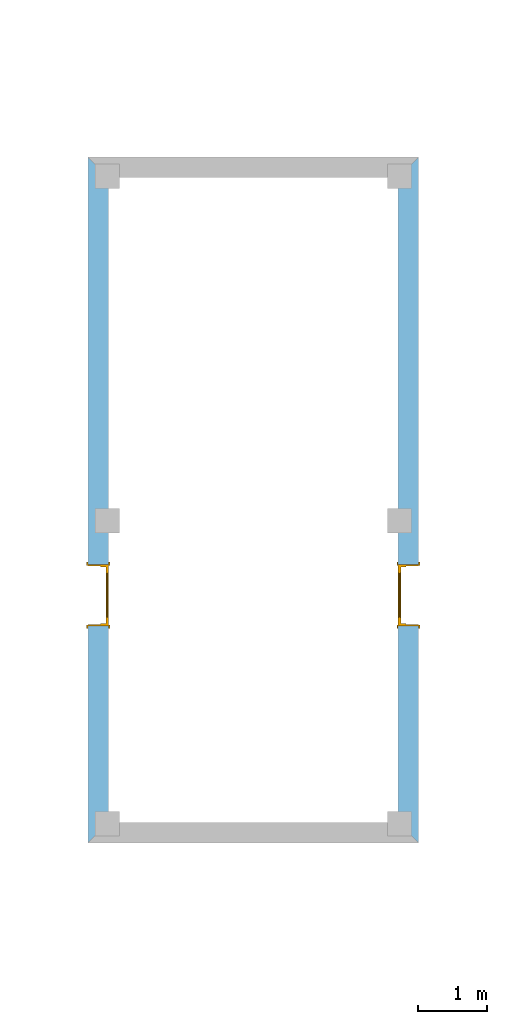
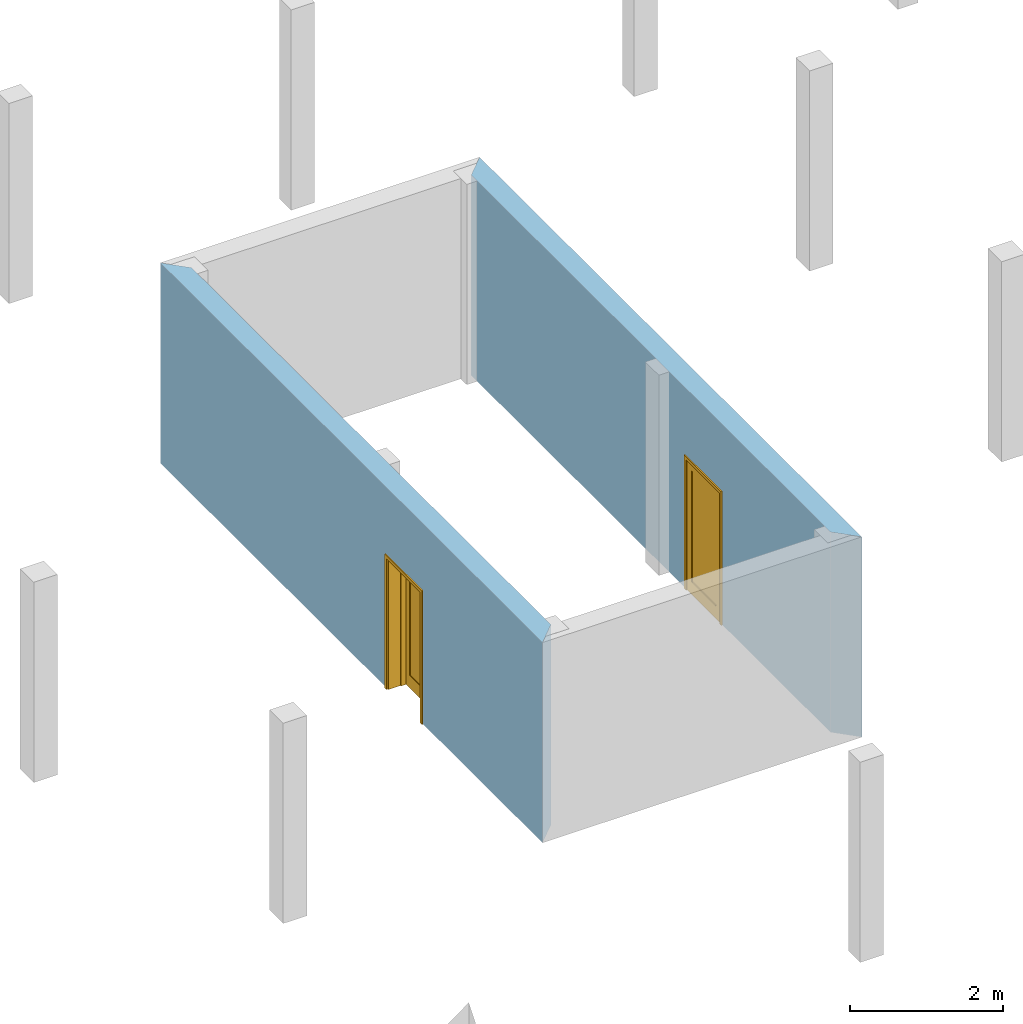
# One storey, part 2 of 2: 2 doors, 2 openings, plus 2 elements that do not belong to this part.
"""IFC2X3 building model written with IfcOpenShell, lengths in millimetres."""

from ifc_helpers import new_model, entity, si_unit, converted_unit, direction, frame, origin_with_axes, origin_2d_with_axis, place, context, subcontext, project, spatial, polyline, rectangle, outline, extrude, faceted_brep, source, transform, mapped, material, layer, layer_set, layer_usage, type_object, element, fill, save


model = new_model("IFC2X3")

# Units and contexts
model_context = context("Model", 3, precision=1e-05, world=origin_with_axes(), true_north=direction((0.0, 1.0)))
body_context = subcontext(model_context, "Body", "Model", "MODEL_VIEW")
ifc_project = project(units=[si_unit("LENGTHUNIT", "METRE", prefix="MILLI"), si_unit("AREAUNIT", "SQUARE_METRE"), si_unit("VOLUMEUNIT", "CUBIC_METRE"), converted_unit("PLANEANGLEUNIT", "DEGREE", entity("IfcPlaneAngleMeasure", 0.017453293), si_unit("PLANEANGLEUNIT", "RADIAN"), dimensions=[0, 0, 0, 0, 0, 0, 0]), si_unit("SOLIDANGLEUNIT", "STERADIAN"), si_unit("MASSUNIT", "GRAM"), si_unit("TIMEUNIT", "SECOND"), si_unit("THERMODYNAMICTEMPERATUREUNIT", "DEGREE_CELSIUS"), si_unit("LUMINOUSINTENSITYUNIT", "LUMEN")], contexts=[model_context])

# Site, building, storey
site_placement = place(None, origin_with_axes())
site = spatial("IfcSite", under=ifc_project, at=site_placement, Name="Sitio", CompositionType="ELEMENT")
building_placement = place(site_placement, origin_with_axes())
building = spatial("IfcBuilding", under=site, at=building_placement, Name="Ejemplo_StruBIM", CompositionType="ELEMENT")
storey_placement = place(building_placement, origin_with_axes())
storey = spatial("IfcBuildingStorey", under=building, at=storey_placement, Name="Low level", CompositionType="ELEMENT", Elevation=0.0)

# Wall, opening, door
ifc_material_1 = material(Name="Bloque mampostería")
ifc_layer = layer(ifc_material_1, 300.0, ventilated="UNKNOWN")
ifc_layer_set = layer_set([ifc_layer], Name="Bloque mampostería 300")
ifc_layer_usage_1 = layer_usage(ifc_layer_set, "AXIS2", "POSITIVE", 0.0)
wall_type = type_object("IfcWallType", Name="Bloque mampostería 11 3/4\"", PredefinedType="NOTDEFINED")
wall_1_placement = place(storey_placement, frame((13690.6, 4292.6, 0.0), z_axis=(0.0, 0.0, 1.0), x_axis=(0.0, 1.0, 0.0)))
wall_1 = element("IfcWallStandardCase", 1, at=wall_1_placement, inside=storey, type_object=wall_type, material=ifc_layer_usage_1, Name="Muro-002", context=body_context, shape_type="SweptSolid", body=[
    extrude(outline(polyline([(0.0, 0.0), (10007.6, 0.0), (9707.6, 300.0), (300.0, 300.0), (0.0, 0.0)])), origin_with_axes(), (0.0, 0.0, 1.0), 3200.4),
])
opening_1_placement = place(wall_1_placement, frame((3614.0, 0.0, 0.0), z_axis=(0.0, 0.0, 1.0), x_axis=(1.0, 0.0, 0.0)))
opening_1 = element("IfcOpeningElement", 2, at=opening_1_placement, cuts=wall_1, Name="P01", context=body_context, shape_type="SweptSolid", body=[
    extrude(rectangle(XDim=900.0, YDim=2100.0, at=origin_2d_with_axis()), frame((0.0, 0.0, 1050.0), z_axis=(0.0, 1.0, 0.0), x_axis=(1.0, 0.0, 0.0)), (0.0, 0.0, 1.0), 300.0),
    extrude(rectangle(XDim=974.0, YDim=2137.0, at=origin_2d_with_axis()), frame((0.0, 0.0, 1068.5), z_axis=(0.0, 1.0, 0.0), x_axis=(1.0, 0.0, 0.0)), (0.0, 0.0, -1.0), 300.0),
    extrude(rectangle(XDim=974.0, YDim=2137.0, at=origin_2d_with_axis()), frame((0.0, 300.0, 1068.5), z_axis=(0.0, -1.0, 0.0), x_axis=(1.0, 0.0, 0.0)), (0.0, 0.0, -1.0), 300.0),
])
ifc_material_2 = material(Name="Fondo")
door_style_1 = type_object("IfcDoorStyle", Name="Puerta 16", ConstructionType="NOTDEFINED", OperationType="SINGLE_SWING_RIGHT", ParameterTakesPrecedence=False, Sizeable=False)
shared_shape_1 = source(origin_with_axes(), body_context, "Body", "Brep", [
    faceted_brep([(-450.0, -115.0, 0.0), (-425.0, -115.0, 0.0), (-425.0, -300.0, 0.0), (-450.0, -300.0, 0.0), (-450.0, -115.0, 2100.0), (-425.0, -115.0, 2075.0), (-425.0, -300.0, 2075.0), (-450.0, -300.0, 2100.0)], [[[0, 1, 2, 3]], [[0, 4, 5, 1]], [[1, 5, 6, 2]], [[3, 2, 6, 7]], [[4, 0, 3, 7]], [[5, 4, 7, 6]]]),
    faceted_brep([(450.0, -115.0, 2100.0), (425.0, -115.0, 2075.0), (425.0, -300.0, 2075.0), (450.0, -300.0, 2100.0), (450.0, -115.0, 0.0), (425.0, -115.0, 0.0), (425.0, -300.0, 0.0), (450.0, -300.0, 0.0)], [[[0, 1, 2, 3]], [[0, 4, 5, 1]], [[1, 5, 6, 2]], [[3, 2, 6, 7]], [[4, 0, 3, 7]], [[5, 4, 7, 6]]]),
    faceted_brep([(-425.0, -115.0, 2075.0), (425.0, -115.0, 2075.0), (425.0, -300.0, 2075.0), (-425.0, -300.0, 2075.0), (-450.0, -115.0, 2100.0), (450.0, -115.0, 2100.0), (450.0, -300.0, 2100.0), (-450.0, -300.0, 2100.0)], [[[0, 1, 2, 3]], [[0, 4, 5, 1]], [[1, 5, 6, 2]], [[3, 2, 6, 7]], [[4, 0, 3, 7]], [[5, 4, 7, 6]]]),
    faceted_brep([(-487.0, -319.0, 0.0), (-487.0, -300.0, 0.0), (-437.0, -300.0, 0.0), (-437.0, -319.0, 0.0), (-487.0, -319.0, 2137.0), (-487.0, -300.0, 2137.0), (-437.0, -300.0, 2087.0), (-437.0, -319.0, 2087.0)], [[[0, 1, 2, 3]], [[4, 5, 1, 0]], [[1, 5, 6, 2]], [[3, 2, 6, 7]], [[0, 3, 7, 4]], [[7, 6, 5, 4]]]),
    faceted_brep([(487.0, -319.0, 2137.0), (487.0, -300.0, 2137.0), (437.0, -300.0, 2087.0), (437.0, -319.0, 2087.0), (487.0, -319.0, 0.0), (487.0, -300.0, 0.0), (437.0, -300.0, 0.0), (437.0, -319.0, 0.0)], [[[0, 1, 2, 3]], [[4, 5, 1, 0]], [[1, 5, 6, 2]], [[3, 2, 6, 7]], [[0, 3, 7, 4]], [[7, 6, 5, 4]]]),
    faceted_brep([(-487.0, -319.0, 2137.0), (-487.0, -300.0, 2137.0), (-437.0, -300.0, 2087.0), (-437.0, -319.0, 2087.0), (487.0, -319.0, 2137.0), (487.0, -300.0, 2137.0), (437.0, -300.0, 2087.0), (437.0, -319.0, 2087.0)], [[[0, 1, 2, 3]], [[4, 5, 1, 0]], [[1, 5, 6, 2]], [[3, 2, 6, 7]], [[0, 3, 7, 4]], [[7, 6, 5, 4]]]),
    faceted_brep([(-487.0, 19.0, 0.0), (-437.0, 19.0, 0.0), (-437.0, 0.0, 0.0), (-487.0, 0.0, 0.0), (-487.0, 19.0, 2137.0), (-437.0, 19.0, 2087.0), (-437.0, 0.0, 2087.0), (-487.0, 0.0, 2137.0)], [[[0, 1, 2, 3]], [[0, 4, 5, 1]], [[1, 5, 6, 2]], [[3, 2, 6, 7]], [[4, 0, 3, 7]], [[5, 4, 7, 6]]]),
    faceted_brep([(487.0, 19.0, 2137.0), (437.0, 19.0, 2087.0), (437.0, 0.0, 2087.0), (487.0, 0.0, 2137.0), (487.0, 19.0, 0.0), (437.0, 19.0, 0.0), (437.0, 0.0, 0.0), (487.0, 0.0, 0.0)], [[[0, 1, 2, 3]], [[0, 4, 5, 1]], [[1, 5, 6, 2]], [[3, 2, 6, 7]], [[4, 0, 3, 7]], [[5, 4, 7, 6]]]),
    faceted_brep([(-487.0, 19.0, 2137.0), (-437.0, 19.0, 2087.0), (-437.0, 0.0, 2087.0), (-487.0, 0.0, 2137.0), (487.0, 19.0, 2137.0), (437.0, 19.0, 2087.0), (437.0, 0.0, 2087.0), (487.0, 0.0, 2137.0)], [[[0, 1, 2, 3]], [[0, 4, 5, 1]], [[1, 5, 6, 2]], [[3, 2, 6, 7]], [[4, 0, 3, 7]], [[5, 4, 7, 6]]]),
    faceted_brep([(-410.0, -40.0, 0.0), (-410.0, -40.0, 2060.0), (-410.0, -115.0, 2060.0), (-410.0, -115.0, 0.0), (-422.0, -40.0, 2060.0), (-422.0, -40.0, 0.0), (-422.0, 2.2351741e-07, 2060.0), (-450.0, 2.2351741e-07, 2060.0), (-450.0, -115.0, 2060.0), (-450.0, -115.0, 0.0), (-450.0, 2.2351741e-07, -3.8951635e-07), (-422.0, 2.2351741e-07, 0.0)], [[[0, 1, 2, 3]], [[4, 1, 0, 5]], [[4, 6, 7, 8, 2, 1]], [[8, 9, 3, 2]], [[5, 0, 3, 9, 10, 11]], [[6, 4, 5, 11]], [[6, 11, 10, 7]], [[9, 8, 7, 10]]]),
    faceted_brep([(422.0, -40.0, 2060.0), (410.0, -40.0, 2060.0), (410.0, -115.0, 2060.0), (450.0, -115.0, 2060.0), (450.0, 2.2351741e-07, 2060.0), (422.0, 2.2351741e-07, 2060.0), (422.0, -40.0, 0.0), (410.0, -40.0, 0.0), (410.0, -115.0, 0.0), (450.0, -115.0, 0.0), (450.0, 2.2351741e-07, -3.8951635e-07), (422.0, 2.2351741e-07, 0.0)], [[[0, 1, 2, 3, 4, 5]], [[1, 0, 6, 7]], [[1, 7, 8, 2]], [[8, 9, 3, 2]], [[3, 9, 10, 4]], [[11, 5, 4, 10]], [[0, 5, 11, 6]], [[6, 11, 10, 9, 8, 7]]]),
    faceted_brep([(-422.0, 2.2351741e-07, 2072.0), (-422.0, 2.2351741e-07, 2060.0), (-450.0, 2.2351741e-07, 2060.0), (-450.0, 2.2351741e-07, 2100.0), (450.0, 2.2351741e-07, 2100.0), (450.0, 2.2351741e-07, 2060.0), (422.0, 2.2351741e-07, 2060.0), (422.0, 2.2351741e-07, 2072.0), (-422.0, -40.0, 2072.0), (-422.0, -40.0, 2060.0), (-410.0, -40.0, 2060.0), (-410.0, -115.0, 2060.0), (-450.0, -115.0, 2060.0), (-450.0, -115.0, 2100.0), (450.0, -115.0, 2100.0), (450.0, -115.0, 2060.0), (422.0, -40.0, 2060.0), (410.0, -115.0, 2060.0), (410.0, -40.0, 2060.0), (422.0, -40.0, 2072.0)], [[[0, 1, 2, 3, 4, 5, 6, 7]], [[1, 0, 8, 9]], [[9, 10, 11, 12, 2, 1]], [[12, 13, 3, 2]], [[13, 14, 4, 3]], [[14, 15, 5, 4]], [[16, 6, 5, 15, 17, 18]], [[7, 6, 16, 19]], [[0, 7, 19, 8]], [[16, 18, 10, 9, 8, 19]], [[10, 18, 17, 11]], [[14, 13, 12, 11, 17, 15]]]),
    faceted_brep([(422.0, 0.0, 200.0), (422.0, -40.0, 200.0), (322.0, -40.0, 200.0), (322.0, 0.0, 200.0), (422.0, 0.0, 1972.0), (422.0, -40.0, 1972.0), (322.0, -40.0, 1972.0), (322.0, 0.0, 1972.0)], [[[0, 1, 2, 3]], [[4, 5, 1, 0]], [[1, 5, 6, 2]], [[3, 2, 6, 7]], [[0, 3, 7, 4]], [[7, 6, 5, 4]]]),
    faceted_brep([(-422.0, 0.0, 200.0), (-422.0, -40.0, 200.0), (-422.0, -40.0, 1972.0), (-422.0, 0.0, 1972.0), (-322.0, 0.0, 200.0), (-322.0, -40.0, 200.0), (-322.0, -40.0, 1972.0), (-322.0, 0.0, 1972.0)], [[[0, 1, 2, 3]], [[4, 5, 1, 0]], [[1, 5, 6, 2]], [[3, 2, 6, 7]], [[0, 3, 7, 4]], [[7, 6, 5, 4]]]),
    faceted_brep([(422.0, 0.0, 0.0), (422.0, -40.0, 0.0), (-422.0, -40.0, 0.0), (-422.0, 0.0, 0.0), (422.0, 0.0, 200.0), (422.0, -40.0, 200.0), (322.0, -40.0, 200.0), (-322.0, -40.0, 200.0), (-422.0, -40.0, 200.0), (-422.0, 0.0, 200.0), (-322.0, 0.0, 200.0), (322.0, 0.0, 200.0)], [[[0, 1, 2, 3]], [[4, 5, 1, 0]], [[1, 5, 6, 7, 8, 2]], [[3, 2, 8, 9]], [[0, 3, 9, 10, 11, 4]], [[11, 6, 5, 4]], [[10, 7, 6, 11]], [[9, 8, 7, 10]]]),
    faceted_brep([(422.0, 0.0, 2072.0), (422.0, -40.0, 2072.0), (422.0, -40.0, 1972.0), (422.0, 0.0, 1972.0), (-422.0, 0.0, 2072.0), (-422.0, -40.0, 2072.0), (-422.0, -40.0, 1972.0), (-322.0, -40.0, 1972.0), (322.0, -40.0, 1972.0), (322.0, 0.0, 1972.0), (-322.0, 0.0, 1972.0), (-422.0, 0.0, 1972.0)], [[[0, 1, 2, 3]], [[4, 5, 1, 0]], [[1, 5, 6, 7, 8, 2]], [[3, 2, 8, 9]], [[0, 3, 9, 10, 11, 4]], [[11, 6, 5, 4]], [[10, 7, 6, 11]], [[9, 8, 7, 10]]]),
    faceted_brep([(322.0, -14.0, 200.0), (322.0, -26.0, 200.0), (-322.0, -26.0, 200.0), (-322.0, -14.0, 200.0), (322.0, -14.0, 1972.0), (322.0, -26.0, 1972.0), (-322.0, -26.0, 1972.0), (-322.0, -14.0, 1972.0)], [[[0, 1, 2, 3]], [[4, 5, 1, 0]], [[1, 5, 6, 2]], [[3, 2, 6, 7]], [[0, 3, 7, 4]], [[7, 6, 5, 4]]]),
])
door_1_placement = place(opening_1_placement, frame((-450.0, 0.0, 0.0), z_axis=(0.0, 0.0, 1.0), x_axis=(1.0, 0.0, 0.0)))
door_1 = element("IfcDoor", 3, at=door_1_placement, inside=storey, type_object=door_style_1, material=ifc_material_2, Name="P01", OverallHeight=2100.0, OverallWidth=900.0, context=body_context, shape_type="MappedRepresentation", body=[
    mapped(shared_shape_1, transform((450.0, 300.0, 0.0))),
])
fill(opening_1, door_1)

ifc_layer_usage_2 = layer_usage(ifc_layer_set, "AXIS2", "POSITIVE", 0.0)
wall_2_placement = place(storey_placement, frame((8864.6, 14300.2, 0.0), z_axis=(0.0, 0.0, 1.0), x_axis=(0.0, -1.0, 0.0)))
wall_2 = element("IfcWallStandardCase", 4, at=wall_2_placement, inside=storey, type_object=wall_type, material=ifc_layer_usage_2, Name="Muro-004", context=body_context, shape_type="SweptSolid", body=[
    extrude(outline(polyline([(0.0, 0.0), (10007.6, 0.0), (9707.6, 300.0), (300.0, 300.0), (0.0, 0.0)])), origin_with_axes(), (0.0, 0.0, 1.0), 3200.4),
])
opening_2_placement = place(wall_2_placement, frame((6393.6, 0.0, 0.0), z_axis=(0.0, 0.0, 1.0), x_axis=(1.0, 0.0, 0.0)))
opening_2 = element("IfcOpeningElement", 5, at=opening_2_placement, cuts=wall_2, Name="P01", context=body_context, shape_type="SweptSolid", body=[
    extrude(rectangle(XDim=900.0, YDim=2100.0, at=origin_2d_with_axis()), frame((0.0, 0.0, 1050.0), z_axis=(0.0, -1.0, 0.0), x_axis=(1.0, 0.0, 0.0)), (0.0, 0.0, -1.0), 300.0),
    extrude(rectangle(XDim=974.0, YDim=2137.0, at=origin_2d_with_axis()), frame((0.0, 0.0, 1068.5), z_axis=(0.0, -1.0, 0.0), x_axis=(1.0, 0.0, 0.0)), (0.0, 0.0, 1.0), 300.0),
    extrude(rectangle(XDim=974.0, YDim=2137.0, at=origin_2d_with_axis()), frame((0.0, 300.0, 1068.5), z_axis=(0.0, 1.0, 0.0), x_axis=(1.0, 0.0, 0.0)), (0.0, 0.0, 1.0), 300.0),
])
door_style_2 = type_object("IfcDoorStyle", Name="Puerta 16", ConstructionType="NOTDEFINED", OperationType="SINGLE_SWING_LEFT", ParameterTakesPrecedence=False, Sizeable=False)
shared_shape_2 = source(origin_with_axes(), body_context, "Body", "Brep", [
    faceted_brep([(450.0, -115.0, 0.0), (450.0, -300.0, 0.0), (425.0, -300.0, 0.0), (425.0, -115.0, 0.0), (450.0, -115.0, 2100.0), (450.0, -300.0, 2100.0), (425.0, -300.0, 2075.0), (425.0, -115.0, 2075.0)], [[[0, 1, 2, 3]], [[4, 5, 1, 0]], [[1, 5, 6, 2]], [[3, 2, 6, 7]], [[0, 3, 7, 4]], [[7, 6, 5, 4]]]),
    faceted_brep([(-450.0, -115.0, 2100.0), (-450.0, -300.0, 2100.0), (-425.0, -300.0, 2075.0), (-425.0, -115.0, 2075.0), (-450.0, -115.0, 0.0), (-450.0, -300.0, 0.0), (-425.0, -300.0, 0.0), (-425.0, -115.0, 0.0)], [[[0, 1, 2, 3]], [[4, 5, 1, 0]], [[1, 5, 6, 2]], [[3, 2, 6, 7]], [[0, 3, 7, 4]], [[7, 6, 5, 4]]]),
    faceted_brep([(425.0, -115.0, 2075.0), (425.0, -300.0, 2075.0), (-425.0, -300.0, 2075.0), (-425.0, -115.0, 2075.0), (450.0, -115.0, 2100.0), (450.0, -300.0, 2100.0), (-450.0, -300.0, 2100.0), (-450.0, -115.0, 2100.0)], [[[0, 1, 2, 3]], [[4, 5, 1, 0]], [[1, 5, 6, 2]], [[3, 2, 6, 7]], [[0, 3, 7, 4]], [[7, 6, 5, 4]]]),
    faceted_brep([(487.0, -319.0, 0.0), (437.0, -319.0, 0.0), (437.0, -300.0, 0.0), (487.0, -300.0, 0.0), (487.0, -319.0, 2137.0), (437.0, -319.0, 2087.0), (437.0, -300.0, 2087.0), (487.0, -300.0, 2137.0)], [[[0, 1, 2, 3]], [[0, 4, 5, 1]], [[1, 5, 6, 2]], [[3, 2, 6, 7]], [[4, 0, 3, 7]], [[5, 4, 7, 6]]]),
    faceted_brep([(-487.0, -319.0, 2137.0), (-437.0, -319.0, 2087.0), (-437.0, -300.0, 2087.0), (-487.0, -300.0, 2137.0), (-487.0, -319.0, 0.0), (-437.0, -319.0, 0.0), (-437.0, -300.0, 0.0), (-487.0, -300.0, 0.0)], [[[0, 1, 2, 3]], [[0, 4, 5, 1]], [[1, 5, 6, 2]], [[3, 2, 6, 7]], [[4, 0, 3, 7]], [[5, 4, 7, 6]]]),
    faceted_brep([(487.0, -319.0, 2137.0), (437.0, -319.0, 2087.0), (437.0, -300.0, 2087.0), (487.0, -300.0, 2137.0), (-487.0, -319.0, 2137.0), (-437.0, -319.0, 2087.0), (-437.0, -300.0, 2087.0), (-487.0, -300.0, 2137.0)], [[[0, 1, 2, 3]], [[0, 4, 5, 1]], [[1, 5, 6, 2]], [[3, 2, 6, 7]], [[4, 0, 3, 7]], [[5, 4, 7, 6]]]),
    faceted_brep([(487.0, 19.0, 0.0), (487.0, 0.0, 0.0), (437.0, 0.0, 0.0), (437.0, 19.0, 0.0), (487.0, 19.0, 2137.0), (487.0, 0.0, 2137.0), (437.0, 0.0, 2087.0), (437.0, 19.0, 2087.0)], [[[0, 1, 2, 3]], [[4, 5, 1, 0]], [[1, 5, 6, 2]], [[3, 2, 6, 7]], [[0, 3, 7, 4]], [[7, 6, 5, 4]]]),
    faceted_brep([(-487.0, 19.0, 2137.0), (-487.0, 0.0, 2137.0), (-437.0, 0.0, 2087.0), (-437.0, 19.0, 2087.0), (-487.0, 19.0, 0.0), (-487.0, 0.0, 0.0), (-437.0, 0.0, 0.0), (-437.0, 19.0, 0.0)], [[[0, 1, 2, 3]], [[4, 5, 1, 0]], [[1, 5, 6, 2]], [[3, 2, 6, 7]], [[0, 3, 7, 4]], [[7, 6, 5, 4]]]),
    faceted_brep([(487.0, 19.0, 2137.0), (487.0, 0.0, 2137.0), (437.0, 0.0, 2087.0), (437.0, 19.0, 2087.0), (-487.0, 19.0, 2137.0), (-487.0, 0.0, 2137.0), (-437.0, 0.0, 2087.0), (-437.0, 19.0, 2087.0)], [[[0, 1, 2, 3]], [[4, 5, 1, 0]], [[1, 5, 6, 2]], [[3, 2, 6, 7]], [[0, 3, 7, 4]], [[7, 6, 5, 4]]]),
    faceted_brep([(410.0, -40.0, 0.0), (410.0, -115.0, 0.0), (410.0, -115.0, 2060.0), (410.0, -40.0, 2060.0), (422.0, -40.0, 0.0), (422.0, 2.2351741e-07, 0.0), (450.0, 2.2351741e-07, -3.8951635e-07), (450.0, -115.0, 0.0), (450.0, -115.0, 2060.0), (422.0, -40.0, 2060.0), (450.0, 2.2351741e-07, 2060.0), (422.0, 2.2351741e-07, 2060.0)], [[[0, 1, 2, 3]], [[4, 5, 6, 7, 1, 0]], [[8, 2, 1, 7]], [[9, 3, 2, 8, 10, 11]], [[9, 4, 0, 3]], [[11, 5, 4, 9]], [[11, 10, 6, 5]], [[7, 6, 10, 8]]]),
    faceted_brep([(-422.0, -40.0, 2060.0), (-422.0, 2.2351741e-07, 2060.0), (-450.0, 2.2351741e-07, 2060.0), (-450.0, -115.0, 2060.0), (-410.0, -115.0, 2060.0), (-410.0, -40.0, 2060.0), (-422.0, -40.0, 0.0), (-422.0, 2.2351741e-07, 0.0), (-450.0, 2.2351741e-07, -3.8951635e-07), (-450.0, -115.0, 0.0), (-410.0, -115.0, 0.0), (-410.0, -40.0, 0.0)], [[[0, 1, 2, 3, 4, 5]], [[0, 6, 7, 1]], [[7, 8, 2, 1]], [[3, 2, 8, 9]], [[10, 4, 3, 9]], [[5, 4, 10, 11]], [[5, 11, 6, 0]], [[6, 11, 10, 9, 8, 7]]]),
    faceted_brep([(422.0, 2.2351741e-07, 2072.0), (-422.0, 2.2351741e-07, 2072.0), (-422.0, 2.2351741e-07, 2060.0), (-450.0, 2.2351741e-07, 2060.0), (-450.0, 2.2351741e-07, 2100.0), (450.0, 2.2351741e-07, 2100.0), (450.0, 2.2351741e-07, 2060.0), (422.0, 2.2351741e-07, 2060.0), (422.0, -40.0, 2072.0), (-422.0, -40.0, 2072.0), (-422.0, -40.0, 2060.0), (-410.0, -40.0, 2060.0), (-410.0, -115.0, 2060.0), (-450.0, -115.0, 2060.0), (-450.0, -115.0, 2100.0), (450.0, -115.0, 2100.0), (450.0, -115.0, 2060.0), (422.0, -40.0, 2060.0), (410.0, -115.0, 2060.0), (410.0, -40.0, 2060.0)], [[[0, 1, 2, 3, 4, 5, 6, 7]], [[0, 8, 9, 1]], [[1, 9, 10, 2]], [[10, 11, 12, 13, 3, 2]], [[14, 4, 3, 13]], [[15, 5, 4, 14]], [[16, 6, 5, 15]], [[17, 7, 6, 16, 18, 19]], [[7, 17, 8, 0]], [[10, 9, 8, 17, 19, 11]], [[19, 18, 12, 11]], [[14, 13, 12, 18, 16, 15]]]),
    faceted_brep([(-422.0, 0.0, 200.0), (-322.0, 0.0, 200.0), (-322.0, -40.0, 200.0), (-422.0, -40.0, 200.0), (-422.0, 0.0, 1972.0), (-322.0, 0.0, 1972.0), (-322.0, -40.0, 1972.0), (-422.0, -40.0, 1972.0)], [[[0, 1, 2, 3]], [[0, 4, 5, 1]], [[1, 5, 6, 2]], [[3, 2, 6, 7]], [[4, 0, 3, 7]], [[5, 4, 7, 6]]]),
    faceted_brep([(422.0, 0.0, 200.0), (422.0, 0.0, 1972.0), (422.0, -40.0, 1972.0), (422.0, -40.0, 200.0), (322.0, 0.0, 200.0), (322.0, 0.0, 1972.0), (322.0, -40.0, 1972.0), (322.0, -40.0, 200.0)], [[[0, 1, 2, 3]], [[0, 4, 5, 1]], [[1, 5, 6, 2]], [[3, 2, 6, 7]], [[4, 0, 3, 7]], [[5, 4, 7, 6]]]),
    faceted_brep([(-422.0, 0.0, 0.0), (422.0, 0.0, 0.0), (422.0, -40.0, 0.0), (-422.0, -40.0, 0.0), (-422.0, 0.0, 200.0), (-322.0, 0.0, 200.0), (322.0, 0.0, 200.0), (422.0, 0.0, 200.0), (422.0, -40.0, 200.0), (322.0, -40.0, 200.0), (-322.0, -40.0, 200.0), (-422.0, -40.0, 200.0)], [[[0, 1, 2, 3]], [[0, 4, 5, 6, 7, 1]], [[1, 7, 8, 2]], [[3, 2, 8, 9, 10, 11]], [[4, 0, 3, 11]], [[5, 4, 11, 10]], [[6, 5, 10, 9]], [[7, 6, 9, 8]]]),
    faceted_brep([(-422.0, 0.0, 2072.0), (-422.0, 0.0, 1972.0), (-422.0, -40.0, 1972.0), (-422.0, -40.0, 2072.0), (422.0, 0.0, 2072.0), (422.0, 0.0, 1972.0), (322.0, 0.0, 1972.0), (-322.0, 0.0, 1972.0), (-322.0, -40.0, 1972.0), (322.0, -40.0, 1972.0), (422.0, -40.0, 1972.0), (422.0, -40.0, 2072.0)], [[[0, 1, 2, 3]], [[0, 4, 5, 6, 7, 1]], [[1, 7, 8, 2]], [[3, 2, 8, 9, 10, 11]], [[4, 0, 3, 11]], [[5, 4, 11, 10]], [[6, 5, 10, 9]], [[7, 6, 9, 8]]]),
    faceted_brep([(-322.0, -14.0, 200.0), (322.0, -14.0, 200.0), (322.0, -26.0, 200.0), (-322.0, -26.0, 200.0), (-322.0, -14.0, 1972.0), (322.0, -14.0, 1972.0), (322.0, -26.0, 1972.0), (-322.0, -26.0, 1972.0)], [[[0, 1, 2, 3]], [[0, 4, 5, 1]], [[1, 5, 6, 2]], [[3, 2, 6, 7]], [[4, 0, 3, 7]], [[5, 4, 7, 6]]]),
])
door_2_placement = place(opening_2_placement, frame((-450.0, 0.0, 0.0), z_axis=(0.0, 0.0, 1.0), x_axis=(1.0, 0.0, 0.0)))
door_2 = element("IfcDoor", 6, at=door_2_placement, inside=storey, type_object=door_style_2, material=ifc_material_2, Name="P01", OverallHeight=2100.0, OverallWidth=900.0, context=body_context, shape_type="MappedRepresentation", body=[
    mapped(shared_shape_2, transform((450.0, 300.0, 0.0))),
])
fill(opening_2, door_2)

save(model, "model.ifc")
